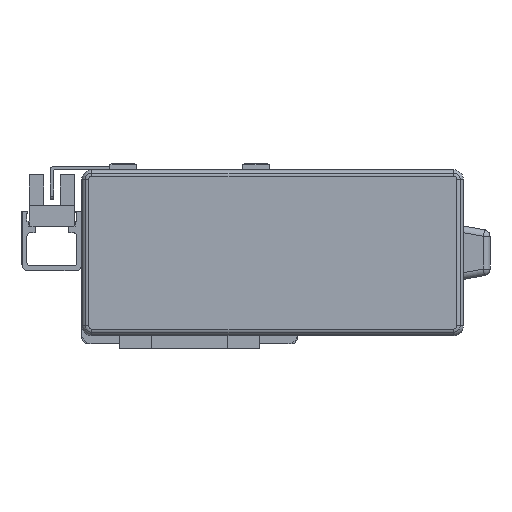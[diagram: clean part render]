
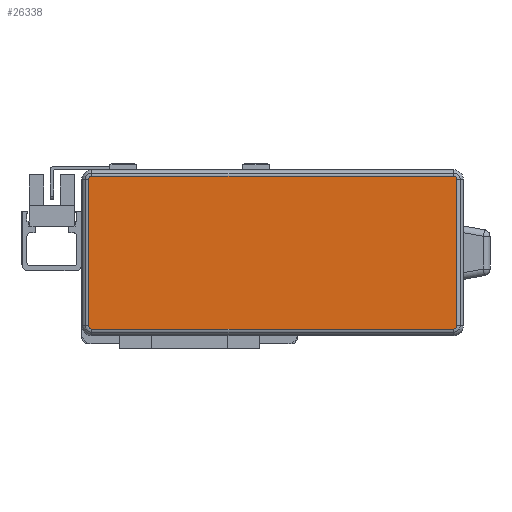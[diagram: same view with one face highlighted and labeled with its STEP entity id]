
A CAD part, left-side view. The second image highlights one B-rep face of the part: STEP entity #26338.
In plain terms, the highlighted planar face has unit normal (-1, 0, 0) as drawn and (0, 0, 1) by its records, which use the part's own axes.
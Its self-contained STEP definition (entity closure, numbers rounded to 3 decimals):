
#529 = DIRECTION ( 'NONE',  ( 0., 0., -1. ) ) ;
#787 = AXIS2_PLACEMENT_3D ( 'NONE', #13716, #529, #15933 ) ;
#939 = CARTESIAN_POINT ( 'NONE',  ( 55.5, -22., 40. ) ) ;
#1518 = CARTESIAN_POINT ( 'NONE',  ( -54.5, -22., 40. ) ) ;
#1701 = VECTOR ( 'NONE', #5958, 1000. ) ;
#2256 = EDGE_CURVE ( 'NONE', #24185, #2926, #2405, .T. ) ;
#2405 = LINE ( 'NONE', #12498, #1701 ) ;
#2505 = DIRECTION ( 'NONE',  ( 1., 0., 0. ) ) ;
#2926 = VERTEX_POINT ( 'NONE', #17040 ) ;
#3360 = CARTESIAN_POINT ( 'NONE',  ( 54.5, -23., 40. ) ) ;
#3658 = CARTESIAN_POINT ( 'NONE',  ( 54.5, 22., 40. ) ) ;
#3738 = DIRECTION ( 'NONE',  ( -1., 0., 0. ) ) ;
#3826 = CARTESIAN_POINT ( 'NONE',  ( 54.5, -22., 40. ) ) ;
#4033 = ORIENTED_EDGE ( 'NONE', *, *, #24480, .T. ) ;
#4744 = DIRECTION ( 'NONE',  ( 0., 0., 1. ) ) ;
#4795 = LINE ( 'NONE', #22203, #27441 ) ;
#5870 = DIRECTION ( 'NONE',  ( -1., 0., 0. ) ) ;
#5958 = DIRECTION ( 'NONE',  ( 0., -1., 0. ) ) ;
#6037 = DIRECTION ( 'NONE',  ( -1., 0., 0. ) ) ;
#6261 = ORIENTED_EDGE ( 'NONE', *, *, #25999, .T. ) ;
#6957 = CARTESIAN_POINT ( 'NONE',  ( 0., 23., 40. ) ) ;
#7026 = EDGE_CURVE ( 'NONE', #17502, #24185, #16016, .T. ) ;
#7686 = VERTEX_POINT ( 'NONE', #939 ) ;
#8811 = ORIENTED_EDGE ( 'NONE', *, *, #17956, .T. ) ;
#9158 = DIRECTION ( 'NONE',  ( -1., 0., 0. ) ) ;
#9239 = VECTOR ( 'NONE', #9158, 1000. ) ;
#10339 = DIRECTION ( 'NONE',  ( 0., 1., 0. ) ) ;
#10547 = CARTESIAN_POINT ( 'NONE',  ( -54.5, 23., 40. ) ) ;
#11052 = LINE ( 'NONE', #16985, #16925 ) ;
#11748 = CARTESIAN_POINT ( 'NONE',  ( 54.5, 23., 40. ) ) ;
#11760 = EDGE_CURVE ( 'NONE', #20360, #17502, #26737, .T. ) ;
#12312 = CARTESIAN_POINT ( 'NONE',  ( -55.5, 22., 40. ) ) ;
#12437 = ORIENTED_EDGE ( 'NONE', *, *, #11760, .T. ) ;
#12498 = CARTESIAN_POINT ( 'NONE',  ( -55.5, 0., 40. ) ) ;
#13689 = AXIS2_PLACEMENT_3D ( 'NONE', #1518, #16909, #3738 ) ;
#13716 = CARTESIAN_POINT ( 'NONE',  ( 0., 0., 40. ) ) ;
#15062 = EDGE_CURVE ( 'NONE', #22760, #20360, #22553, .T. ) ;
#15370 = ORIENTED_EDGE ( 'NONE', *, *, #21256, .T. ) ;
#15477 = VERTEX_POINT ( 'NONE', #3360 ) ;
#15660 = CIRCLE ( 'NONE', #24382, 1. ) ;
#15933 = DIRECTION ( 'NONE',  ( -1., 0., 0. ) ) ;
#16016 = CIRCLE ( 'NONE', #19172, 1. ) ;
#16909 = DIRECTION ( 'NONE',  ( 0., 0., 1. ) ) ;
#16925 = VECTOR ( 'NONE', #10339, 1000. ) ;
#16985 = CARTESIAN_POINT ( 'NONE',  ( 55.5, 0., 40. ) ) ;
#17040 = CARTESIAN_POINT ( 'NONE',  ( -55.5, -22., 40. ) ) ;
#17502 = VERTEX_POINT ( 'NONE', #10547 ) ;
#17595 = CARTESIAN_POINT ( 'NONE',  ( 55.5, 22., 40. ) ) ;
#17907 = CARTESIAN_POINT ( 'NONE',  ( -54.5, 22., 40. ) ) ;
#17956 = EDGE_CURVE ( 'NONE', #7686, #22760, #11052, .T. ) ;
#18550 = CARTESIAN_POINT ( 'NONE',  ( -54.5, -23., 40. ) ) ;
#19054 = DIRECTION ( 'NONE',  ( 0., 0., 1. ) ) ;
#19068 = VERTEX_POINT ( 'NONE', #18550 ) ;
#19172 = AXIS2_PLACEMENT_3D ( 'NONE', #17907, #4744, #20120 ) ;
#19216 = DIRECTION ( 'NONE',  ( 0., 0., 1. ) ) ;
#19629 = ORIENTED_EDGE ( 'NONE', *, *, #7026, .T. ) ;
#20120 = DIRECTION ( 'NONE',  ( -1., 0., 0. ) ) ;
#20360 = VERTEX_POINT ( 'NONE', #11748 ) ;
#20822 = AXIS2_PLACEMENT_3D ( 'NONE', #3658, #19054, #5870 ) ;
#21256 = EDGE_CURVE ( 'NONE', #15477, #7686, #15660, .T. ) ;
#22203 = CARTESIAN_POINT ( 'NONE',  ( 0., -23., 40. ) ) ;
#22553 = CIRCLE ( 'NONE', #20822, 1. ) ;
#22760 = VERTEX_POINT ( 'NONE', #17595 ) ;
#23494 = FACE_OUTER_BOUND ( 'NONE', #25338, .T. ) ;
#24185 = VERTEX_POINT ( 'NONE', #12312 ) ;
#24382 = AXIS2_PLACEMENT_3D ( 'NONE', #3826, #19216, #6037 ) ;
#24459 = ORIENTED_EDGE ( 'NONE', *, *, #15062, .T. ) ;
#24480 = EDGE_CURVE ( 'NONE', #19068, #15477, #4795, .T. ) ;
#24736 = ORIENTED_EDGE ( 'NONE', *, *, #2256, .T. ) ;
#25338 = EDGE_LOOP ( 'NONE', ( #4033, #15370, #8811, #24459, #12437, #19629, #24736, #6261 ) ) ;
#25999 = EDGE_CURVE ( 'NONE', #2926, #19068, #27956, .T. ) ;
#26338 = ADVANCED_FACE ( 'NONE', ( #23494 ), #26844, .F. ) ;
#26737 = LINE ( 'NONE', #6957, #9239 ) ;
#26844 = PLANE ( 'NONE',  #787 ) ;
#27441 = VECTOR ( 'NONE', #2505, 1000. ) ;
#27956 = CIRCLE ( 'NONE', #13689, 1. ) ;
